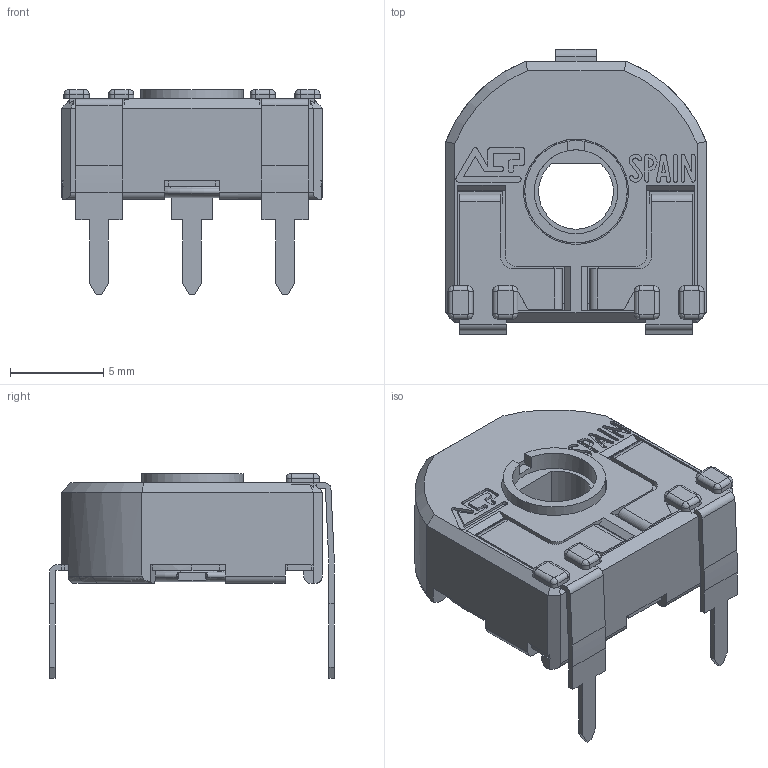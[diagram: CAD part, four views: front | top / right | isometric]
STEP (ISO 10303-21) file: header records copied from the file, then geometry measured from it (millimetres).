
FILE_DESCRIPTION(/* description */ (''),/* implementation_level */ '2;1');
FILE_NAME(/* name */ 'C:\Users\CEM\Desktop\ENVIAR\TRANSICION 3D CATALOGOS\CAR14FV15.stp',/* time_stamp */ '2025-09-22T09:51:31+02:00',/* author */ ('CEM'),/* organization */ (''),/* preprocessor_version */ 'ST-DEVELOPER v17',/* originating_system */ 'Autodesk Inventor 2018',/* authorisation */ '');
FILE_SCHEMA (('AUTOMOTIVE_DESIGN { 1 0 10303 214 3 1 1 }'));
Length unit declared in the file: millimetre
Products named in the file (1): CAR14FV15
Bounding box: 14 x 15.3 x 11 mm (x, y, z)
Volume: 546.4 mm3; surface area: 1551.1 mm2
Topology: 1 solids, 1 shells, 593 faces, 1730 edges, 1109 vertices
Faces by surface type: plane 403, cylinder 147, bspline 20, cone 14, torus 9
Full cylindrical faces by diameter (mm): 1.2 x2, 4.5 x1, 5.5 x1, 5.65 x1, 6.88 x1
Entity records: 20349 total; most frequent: CARTESIAN_POINT 3757, ORIENTED_EDGE 3460, DIRECTION 3253, EDGE_CURVE 1730, LINE 1279, VECTOR 1279, VERTEX_POINT 1109, AXIS2_PLACEMENT_3D 987
